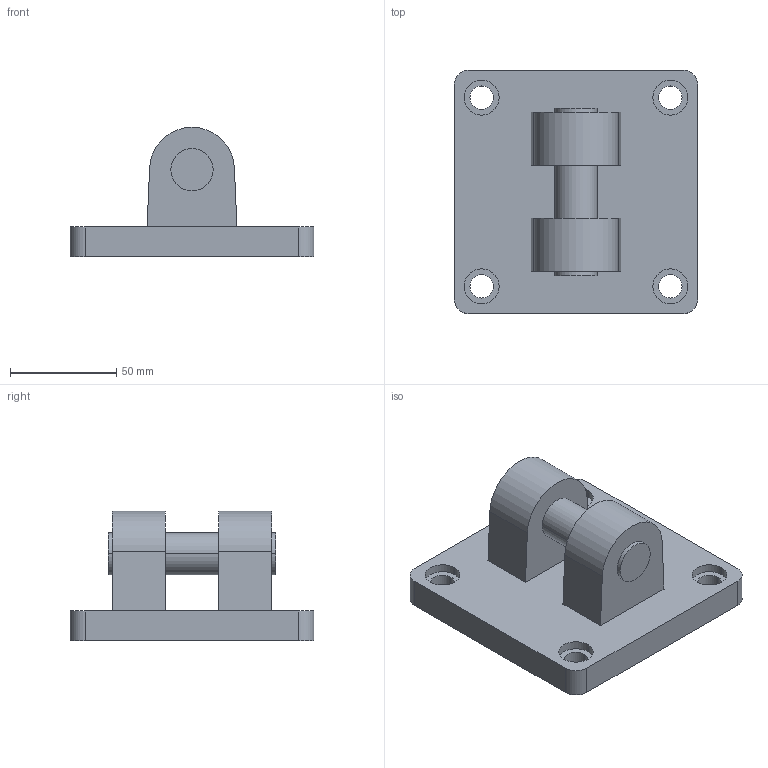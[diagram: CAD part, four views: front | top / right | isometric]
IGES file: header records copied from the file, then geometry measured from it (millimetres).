
Global section: file name: No Iges File Name specified; native system: AutoDesk Inventor R11.0; preprocessor: AutoDesk Inventor Iges Exporter R11.0; author: No Author specified; organization: No Organization specified; date: 20060711.173829; units: millimetre
Bounding box: 115 x 115 x 61 mm (x, y, z)
Volume: 261588.5 mm3; surface area: 46823.4 mm2
Topology: 1 solids, 1 shells, 51 faces, 120 edges, 80 vertices
Faces by surface type: bspline 23, plane 16, cylinder 12
